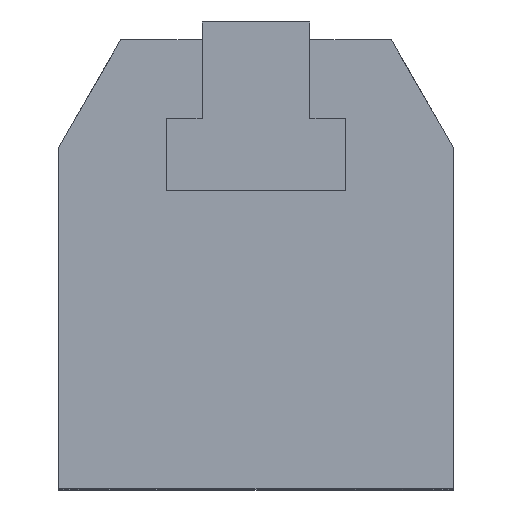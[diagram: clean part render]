
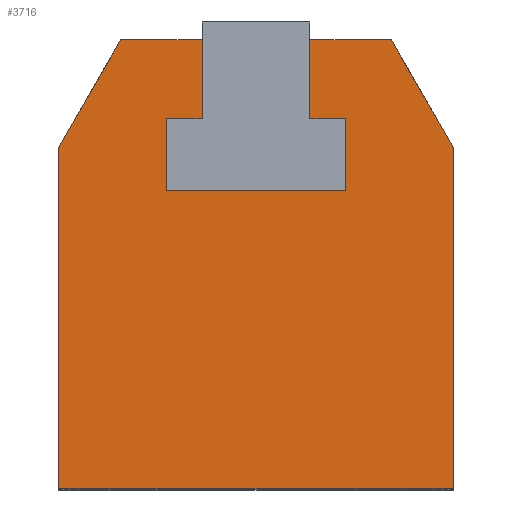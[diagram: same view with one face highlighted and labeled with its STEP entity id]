
A CAD part, top view. The second image highlights one B-rep face of the part: STEP entity #3716.
In plain terms, the highlighted planar face has unit normal (0, 0, 1).
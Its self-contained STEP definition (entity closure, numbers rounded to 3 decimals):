
#134 = ORIENTED_EDGE ( 'NONE', *, *, #1664, .F. ) ;
#150 = DIRECTION ( 'NONE',  ( 1., 0., 0. ) ) ;
#160 = VECTOR ( 'NONE', #4498, 1000. ) ;
#190 = VECTOR ( 'NONE', #1738, 1000. ) ;
#250 = DIRECTION ( 'NONE',  ( -1., 0., 0. ) ) ;
#347 = ORIENTED_EDGE ( 'NONE', *, *, #3442, .F. ) ;
#375 = CARTESIAN_POINT ( 'NONE',  ( 25., 103., 105. ) ) ;
#479 = VECTOR ( 'NONE', #5220, 1000. ) ;
#484 = CARTESIAN_POINT ( 'NONE',  ( 15., 125., 105. ) ) ;
#485 = CARTESIAN_POINT ( 'NONE',  ( 55., 0., 105. ) ) ;
#517 = CARTESIAN_POINT ( 'NONE',  ( 55., 95., 105. ) ) ;
#521 = LINE ( 'NONE', #6219, #4195 ) ;
#528 = CARTESIAN_POINT ( 'NONE',  ( -55., 95., 105. ) ) ;
#715 = ORIENTED_EDGE ( 'NONE', *, *, #876, .F. ) ;
#752 = VECTOR ( 'NONE', #7060, 1000. ) ;
#767 = CARTESIAN_POINT ( 'NONE',  ( 15., 103., 105. ) ) ;
#786 = EDGE_CURVE ( 'NONE', #3571, #7459, #4076, .T. ) ;
#792 = VERTEX_POINT ( 'NONE', #3417 ) ;
#857 = EDGE_CURVE ( 'NONE', #7016, #5275, #3169, .T. ) ;
#876 = EDGE_CURVE ( 'NONE', #3959, #1920, #3889, .T. ) ;
#1104 = VERTEX_POINT ( 'NONE', #767 ) ;
#1212 = LINE ( 'NONE', #4784, #4684 ) ;
#1239 = CARTESIAN_POINT ( 'NONE',  ( -15., 103., 105. ) ) ;
#1279 = DIRECTION ( 'NONE',  ( 0., 1., 0. ) ) ;
#1290 = DIRECTION ( 'NONE',  ( 0., -1., 0. ) ) ;
#1363 = EDGE_CURVE ( 'NONE', #2765, #792, #6980, .T. ) ;
#1371 = ORIENTED_EDGE ( 'NONE', *, *, #786, .T. ) ;
#1568 = EDGE_CURVE ( 'NONE', #7459, #7053, #4062, .T. ) ;
#1664 = EDGE_CURVE ( 'NONE', #6566, #7016, #6886, .T. ) ;
#1738 = DIRECTION ( 'NONE',  ( -0.5, 0.866, 0. ) ) ;
#1756 = CARTESIAN_POINT ( 'NONE',  ( -15., 0., 105. ) ) ;
#1768 = EDGE_LOOP ( 'NONE', ( #7167, #4346, #6614, #6112, #134, #347, #715, #3833, #1909, #5423, #1371, #2657, #7381, #7079 ) ) ;
#1808 = CARTESIAN_POINT ( 'NONE',  ( 25., 103., 105. ) ) ;
#1851 = CARTESIAN_POINT ( 'NONE',  ( -37.7, 125., 105. ) ) ;
#1882 = DIRECTION ( 'NONE',  ( -1., 0., 0. ) ) ;
#1896 = CARTESIAN_POINT ( 'NONE',  ( -55., 0., 105. ) ) ;
#1909 = ORIENTED_EDGE ( 'NONE', *, *, #5426, .T. ) ;
#1920 = VERTEX_POINT ( 'NONE', #1950 ) ;
#1950 = CARTESIAN_POINT ( 'NONE',  ( -25., 103., 105. ) ) ;
#2375 = DIRECTION ( 'NONE',  ( -1., 0., 0. ) ) ;
#2391 = VECTOR ( 'NONE', #5891, 1000. ) ;
#2479 = EDGE_CURVE ( 'NONE', #1104, #5232, #4876, .T. ) ;
#2530 = VECTOR ( 'NONE', #150, 1000. ) ;
#2657 = ORIENTED_EDGE ( 'NONE', *, *, #1568, .T. ) ;
#2765 = VERTEX_POINT ( 'NONE', #5769 ) ;
#2902 = LINE ( 'NONE', #3005, #7247 ) ;
#2982 = CARTESIAN_POINT ( 'NONE',  ( 37.7, 125., 105. ) ) ;
#3005 = CARTESIAN_POINT ( 'NONE',  ( 55., 0., 105. ) ) ;
#3169 = LINE ( 'NONE', #7523, #479 ) ;
#3331 = CARTESIAN_POINT ( 'NONE',  ( -37.7, 125., 105. ) ) ;
#3417 = CARTESIAN_POINT ( 'NONE',  ( 37.7, 125., 105. ) ) ;
#3442 = EDGE_CURVE ( 'NONE', #1920, #6566, #1212, .T. ) ;
#3571 = VERTEX_POINT ( 'NONE', #6704 ) ;
#3681 = FACE_OUTER_BOUND ( 'NONE', #1768, .T. ) ;
#3695 = CARTESIAN_POINT ( 'NONE',  ( -15., 125., 105. ) ) ;
#3709 = CARTESIAN_POINT ( 'NONE',  ( -25., 83., 105. ) ) ;
#3716 = ADVANCED_FACE ( 'NONE', ( #3681 ), #7541, .T. ) ;
#3833 = ORIENTED_EDGE ( 'NONE', *, *, #6098, .T. ) ;
#3889 = LINE ( 'NONE', #1239, #7427 ) ;
#3959 = VERTEX_POINT ( 'NONE', #4724 ) ;
#4062 = LINE ( 'NONE', #1896, #2530 ) ;
#4076 = LINE ( 'NONE', #528, #6893 ) ;
#4098 = LINE ( 'NONE', #1808, #6212 ) ;
#4195 = VECTOR ( 'NONE', #250, 1000. ) ;
#4346 = ORIENTED_EDGE ( 'NONE', *, *, #2479, .F. ) ;
#4431 = VERTEX_POINT ( 'NONE', #3695 ) ;
#4454 = LINE ( 'NONE', #1756, #2391 ) ;
#4493 = EDGE_CURVE ( 'NONE', #4841, #3571, #6681, .T. ) ;
#4498 = DIRECTION ( 'NONE',  ( -0.5, -0.866, 0. ) ) ;
#4684 = VECTOR ( 'NONE', #1290, 1000. ) ;
#4724 = CARTESIAN_POINT ( 'NONE',  ( -15., 103., 105. ) ) ;
#4784 = CARTESIAN_POINT ( 'NONE',  ( -25., 103., 105. ) ) ;
#4841 = VERTEX_POINT ( 'NONE', #1851 ) ;
#4876 = LINE ( 'NONE', #5955, #752 ) ;
#4933 = VECTOR ( 'NONE', #7029, 1000. ) ;
#5113 = EDGE_CURVE ( 'NONE', #792, #5232, #521, .T. ) ;
#5203 = LINE ( 'NONE', #2982, #4933 ) ;
#5220 = DIRECTION ( 'NONE',  ( 0., 1., 0. ) ) ;
#5232 = VERTEX_POINT ( 'NONE', #484 ) ;
#5275 = VERTEX_POINT ( 'NONE', #375 ) ;
#5340 = VECTOR ( 'NONE', #5437, 1000. ) ;
#5423 = ORIENTED_EDGE ( 'NONE', *, *, #4493, .T. ) ;
#5426 = EDGE_CURVE ( 'NONE', #4431, #4841, #5203, .T. ) ;
#5437 = DIRECTION ( 'NONE',  ( 1., 0., 0. ) ) ;
#5621 = CARTESIAN_POINT ( 'NONE',  ( -55., 0., 105. ) ) ;
#5769 = CARTESIAN_POINT ( 'NONE',  ( 55., 95., 105. ) ) ;
#5811 = DIRECTION ( 'NONE',  ( 0., -1., 0. ) ) ;
#5853 = DIRECTION ( 'NONE',  ( 0., 0., 1. ) ) ;
#5891 = DIRECTION ( 'NONE',  ( 0., 1., 0. ) ) ;
#5955 = CARTESIAN_POINT ( 'NONE',  ( 15., 103., 105. ) ) ;
#6086 = EDGE_CURVE ( 'NONE', #5275, #1104, #4098, .T. ) ;
#6098 = EDGE_CURVE ( 'NONE', #3959, #4431, #4454, .T. ) ;
#6112 = ORIENTED_EDGE ( 'NONE', *, *, #857, .F. ) ;
#6199 = CARTESIAN_POINT ( 'NONE',  ( -25., 83., 105. ) ) ;
#6212 = VECTOR ( 'NONE', #2375, 1000. ) ;
#6219 = CARTESIAN_POINT ( 'NONE',  ( 37.7, 125., 105. ) ) ;
#6360 = DIRECTION ( 'NONE',  ( 1., 0., 0. ) ) ;
#6566 = VERTEX_POINT ( 'NONE', #6199 ) ;
#6614 = ORIENTED_EDGE ( 'NONE', *, *, #6086, .F. ) ;
#6681 = LINE ( 'NONE', #3331, #160 ) ;
#6704 = CARTESIAN_POINT ( 'NONE',  ( -55., 95., 105. ) ) ;
#6886 = LINE ( 'NONE', #3709, #5340 ) ;
#6893 = VECTOR ( 'NONE', #5811, 1000. ) ;
#6894 = AXIS2_PLACEMENT_3D ( 'NONE', #7468, #5853, #6360 ) ;
#6980 = LINE ( 'NONE', #517, #190 ) ;
#7016 = VERTEX_POINT ( 'NONE', #7330 ) ;
#7029 = DIRECTION ( 'NONE',  ( -1., 0., 0. ) ) ;
#7053 = VERTEX_POINT ( 'NONE', #485 ) ;
#7060 = DIRECTION ( 'NONE',  ( 0., 1., 0. ) ) ;
#7079 = ORIENTED_EDGE ( 'NONE', *, *, #1363, .T. ) ;
#7147 = EDGE_CURVE ( 'NONE', #7053, #2765, #2902, .T. ) ;
#7167 = ORIENTED_EDGE ( 'NONE', *, *, #5113, .T. ) ;
#7247 = VECTOR ( 'NONE', #1279, 1000. ) ;
#7330 = CARTESIAN_POINT ( 'NONE',  ( 25., 83., 105. ) ) ;
#7381 = ORIENTED_EDGE ( 'NONE', *, *, #7147, .T. ) ;
#7427 = VECTOR ( 'NONE', #1882, 1000. ) ;
#7459 = VERTEX_POINT ( 'NONE', #5621 ) ;
#7468 = CARTESIAN_POINT ( 'NONE',  ( 0., 0., 105. ) ) ;
#7523 = CARTESIAN_POINT ( 'NONE',  ( 25., 83., 105. ) ) ;
#7541 = PLANE ( 'NONE',  #6894 ) ;
